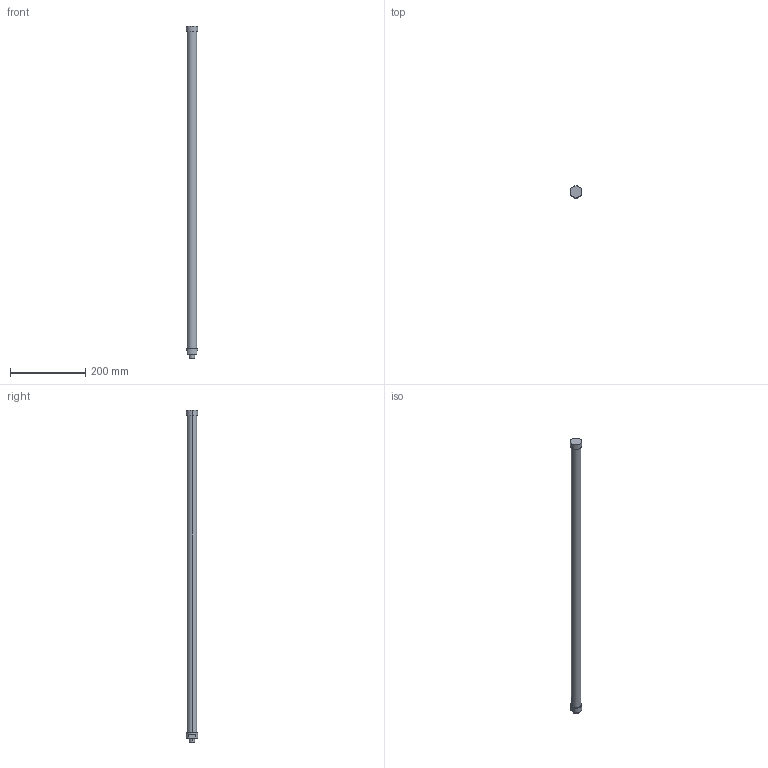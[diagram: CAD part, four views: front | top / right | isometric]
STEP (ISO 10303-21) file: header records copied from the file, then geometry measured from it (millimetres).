
FILE_DESCRIPTION(('STEP AP214'),'1');
FILE_NAME('C:/Users/Autocad/Desktop/L884-C660S1-FN.stp','2014-02-10T11:04:29',(' '),(' '),'Spatial InterOp 3D',' ',' ');
FILE_SCHEMA(('automotive_design'));
Length unit declared in the file: metre
Products named in the file (2): 1; 2
Bounding box: 31 x 31 x 884 mm (x, y, z)
Volume: 437511.6 mm3; surface area: 72254.5 mm2
Topology: 1 solids, 4 shells, 23 faces, 54 edges, 40 vertices
Faces by surface type: cylinder 12, plane 11
Entity records: 916 total; most frequent: DIRECTION 136, CARTESIAN_POINT 119, ORIENTED_EDGE 96, AXIS2_PLACEMENT_3D 57, EDGE_CURVE 54, VERTEX_POINT 40, CIRCLE 32, EDGE_LOOP 28
